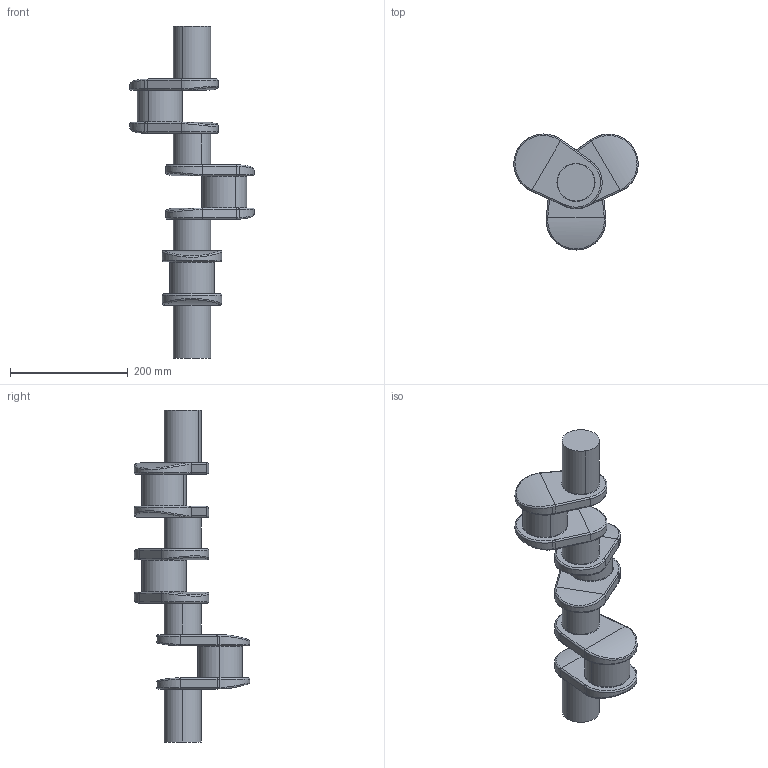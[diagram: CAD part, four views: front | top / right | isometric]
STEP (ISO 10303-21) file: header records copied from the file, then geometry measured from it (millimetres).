
FILE_DESCRIPTION (( 'STEP AP203' ), '1' );
FILE_NAME ('crankshaft.STEP', '2019-05-31T16:29:55', ( '' ), ( '' ), 'SwSTEP 2.0', 'SolidWorks 2018', '' );
FILE_SCHEMA (( 'CONFIG_CONTROL_DESIGN' ));
Length unit declared in the file: millimetre
Products named in the file (1): crankshaft
Bounding box: 211.59 x 196.85 x 564.88 mm (x, y, z)
Volume: 3073551.5 mm3; surface area: 251902.4 mm2
Topology: 1 solids, 1 shells, 172 faces, 394 edges, 236 vertices
Faces by surface type: cylinder 74, torus 48, plane 26, bspline 24
Entity records: 9079 total; most frequent: CARTESIAN_POINT 5291, ORIENTED_EDGE 788, DIRECTION 784, EDGE_CURVE 394, AXIS2_PLACEMENT_3D 337, VERTEX_POINT 236, CIRCLE 188, EDGE_LOOP 184
